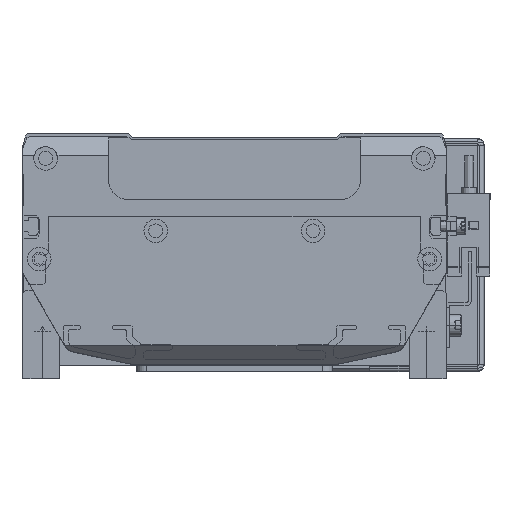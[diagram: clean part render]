
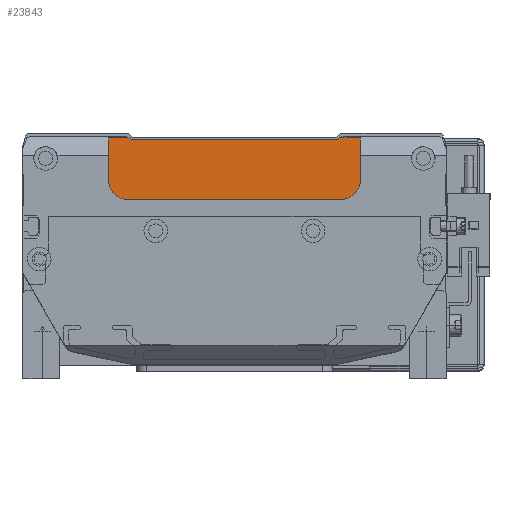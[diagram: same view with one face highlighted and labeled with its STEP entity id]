
A CAD part, front view. The second image highlights one B-rep face of the part: STEP entity #23843.
In plain terms, the highlighted planar face has unit normal (0, -1, 0) as drawn and (0, 0, -1) by its records, which use the part's own axes.
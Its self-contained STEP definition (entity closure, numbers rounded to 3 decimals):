
#223 = CARTESIAN_POINT ( 'NONE',  ( 43.604, 15., -364. ) ) ;
#397 = EDGE_CURVE ( 'NONE', #5587, #20137, #9234, .T. ) ;
#2311 = DIRECTION ( 'NONE',  ( -1., 0., 0. ) ) ;
#2367 = DIRECTION ( 'NONE',  ( 1., 0., 0. ) ) ;
#2801 = DIRECTION ( 'NONE',  ( -1., 0., 0. ) ) ;
#3182 = DIRECTION ( 'NONE',  ( -1., 0., 0. ) ) ;
#3873 = DIRECTION ( 'NONE',  ( 0., -1., 0. ) ) ;
#4660 = DIRECTION ( 'NONE',  ( 1., 0., 0. ) ) ;
#4661 = DIRECTION ( 'NONE',  ( 0., 0., -1. ) ) ;
#5439 = DIRECTION ( 'NONE',  ( -0.894, -0.447, 0. ) ) ;
#5519 = DIRECTION ( 'NONE',  ( 0., 0., -1. ) ) ;
#5587 = VERTEX_POINT ( 'NONE', #26296 ) ;
#5819 = EDGE_CURVE ( 'NONE', #36387, #37229, #37084, .T. ) ;
#5986 = CARTESIAN_POINT ( 'NONE',  ( -29.893, 1.5, -364. ) ) ;
#6266 = CARTESIAN_POINT ( 'NONE',  ( 3.604, 25., -364. ) ) ;
#6802 = CARTESIAN_POINT ( 'NONE',  ( 3.604, 2., -364. ) ) ;
#7036 = CIRCLE ( 'NONE', #11760, 6. ) ;
#7634 = CARTESIAN_POINT ( 'NONE',  ( 37.1, 1.5, -364. ) ) ;
#7862 = ORIENTED_EDGE ( 'NONE', *, *, #20999, .T. ) ;
#8138 = VECTOR ( 'NONE', #33960, 1000. ) ;
#8229 = CARTESIAN_POINT ( 'NONE',  ( -36.396, 25., -364. ) ) ;
#9234 = LINE ( 'NONE', #6802, #8138 ) ;
#9597 = VECTOR ( 'NONE', #3182, 1000. ) ;
#10255 = VERTEX_POINT ( 'NONE', #223 ) ;
#10917 = CARTESIAN_POINT ( 'NONE',  ( -28.893, 2., -364. ) ) ;
#11424 = LINE ( 'NONE', #8229, #36746 ) ;
#11683 = ORIENTED_EDGE ( 'NONE', *, *, #22868, .T. ) ;
#11760 = AXIS2_PLACEMENT_3D ( 'NONE', #42809, #4661, #39514 ) ;
#12233 = FACE_OUTER_BOUND ( 'NONE', #33305, .T. ) ;
#12374 = LINE ( 'NONE', #10917, #14550 ) ;
#12785 = CARTESIAN_POINT ( 'NONE',  ( 3.604, 1.5, -364. ) ) ;
#13415 = CARTESIAN_POINT ( 'NONE',  ( -36.396, 1.5, -364. ) ) ;
#14178 = AXIS2_PLACEMENT_3D ( 'NONE', #6266, #26499, #2801 ) ;
#14550 = VECTOR ( 'NONE', #5439, 1000. ) ;
#15188 = VERTEX_POINT ( 'NONE', #7634 ) ;
#16090 = CARTESIAN_POINT ( 'NONE',  ( -36.396, 15., -364. ) ) ;
#17005 = ORIENTED_EDGE ( 'NONE', *, *, #44320, .T. ) ;
#17081 = VERTEX_POINT ( 'NONE', #5986 ) ;
#17100 = ORIENTED_EDGE ( 'NONE', *, *, #5819, .T. ) ;
#17750 = CARTESIAN_POINT ( 'NONE',  ( 3.604, 1.5, -364. ) ) ;
#19514 = CARTESIAN_POINT ( 'NONE',  ( 0.903, 19.599, -364. ) ) ;
#19656 = ORIENTED_EDGE ( 'NONE', *, *, #24965, .F. ) ;
#19839 = ORIENTED_EDGE ( 'NONE', *, *, #41584, .T. ) ;
#20137 = VERTEX_POINT ( 'NONE', #36963 ) ;
#20844 = VECTOR ( 'NONE', #2311, 1000. ) ;
#20999 = EDGE_CURVE ( 'NONE', #29618, #15188, #22484, .T. ) ;
#22484 = LINE ( 'NONE', #12785, #20844 ) ;
#22868 = EDGE_CURVE ( 'NONE', #17081, #35669, #37109, .T. ) ;
#22926 = CARTESIAN_POINT ( 'NONE',  ( 37.604, 15., -364. ) ) ;
#23843 = ADVANCED_FACE ( 'NONE', ( #12233 ), #33559, .T. ) ;
#24150 = CARTESIAN_POINT ( 'NONE',  ( 43.604, 25., -364. ) ) ;
#24476 = ORIENTED_EDGE ( 'NONE', *, *, #26454, .T. ) ;
#24965 = EDGE_CURVE ( 'NONE', #5587, #15188, #28263, .T. ) ;
#25231 = EDGE_CURVE ( 'NONE', #10255, #29618, #41147, .T. ) ;
#26128 = VECTOR ( 'NONE', #37098, 1000. ) ;
#26296 = CARTESIAN_POINT ( 'NONE',  ( 36.1, 2., -364. ) ) ;
#26454 = EDGE_CURVE ( 'NONE', #37229, #10255, #36255, .T. ) ;
#26499 = DIRECTION ( 'NONE',  ( 0., 0., -1. ) ) ;
#28263 = LINE ( 'NONE', #19514, #26128 ) ;
#29618 = VERTEX_POINT ( 'NONE', #32053 ) ;
#32053 = CARTESIAN_POINT ( 'NONE',  ( 43.604, 1.5, -364. ) ) ;
#32239 = VECTOR ( 'NONE', #4660, 1000. ) ;
#33305 = EDGE_LOOP ( 'NONE', ( #19839, #11683, #44443, #17005, #17100, #24476, #35159, #7862, #19656, #43346 ) ) ;
#33559 = PLANE ( 'NONE',  #14178 ) ;
#33622 = VECTOR ( 'NONE', #3873, 1000. ) ;
#33960 = DIRECTION ( 'NONE',  ( -1., 0., 0. ) ) ;
#34139 = AXIS2_PLACEMENT_3D ( 'NONE', #22926, #5519, #2367 ) ;
#35159 = ORIENTED_EDGE ( 'NONE', *, *, #25231, .T. ) ;
#35669 = VERTEX_POINT ( 'NONE', #13415 ) ;
#36079 = VERTEX_POINT ( 'NONE', #16090 ) ;
#36255 = CIRCLE ( 'NONE', #34139, 6. ) ;
#36387 = VERTEX_POINT ( 'NONE', #41159 ) ;
#36746 = VECTOR ( 'NONE', #39575, 1000. ) ;
#36963 = CARTESIAN_POINT ( 'NONE',  ( -28.893, 2., -364. ) ) ;
#37084 = LINE ( 'NONE', #42504, #32239 ) ;
#37098 = DIRECTION ( 'NONE',  ( 0.894, -0.447, 0. ) ) ;
#37109 = LINE ( 'NONE', #17750, #9597 ) ;
#37229 = VERTEX_POINT ( 'NONE', #42245 ) ;
#39514 = DIRECTION ( 'NONE',  ( 1., 0., 0. ) ) ;
#39575 = DIRECTION ( 'NONE',  ( 0., 1., 0. ) ) ;
#40316 = EDGE_CURVE ( 'NONE', #35669, #36079, #11424, .T. ) ;
#41147 = LINE ( 'NONE', #24150, #33622 ) ;
#41159 = CARTESIAN_POINT ( 'NONE',  ( -30.396, 21., -364. ) ) ;
#41584 = EDGE_CURVE ( 'NONE', #20137, #17081, #12374, .T. ) ;
#42245 = CARTESIAN_POINT ( 'NONE',  ( 37.604, 21., -364. ) ) ;
#42504 = CARTESIAN_POINT ( 'NONE',  ( 3.604, 21., -364. ) ) ;
#42809 = CARTESIAN_POINT ( 'NONE',  ( -30.396, 15., -364. ) ) ;
#43346 = ORIENTED_EDGE ( 'NONE', *, *, #397, .T. ) ;
#44320 = EDGE_CURVE ( 'NONE', #36079, #36387, #7036, .T. ) ;
#44443 = ORIENTED_EDGE ( 'NONE', *, *, #40316, .T. ) ;
